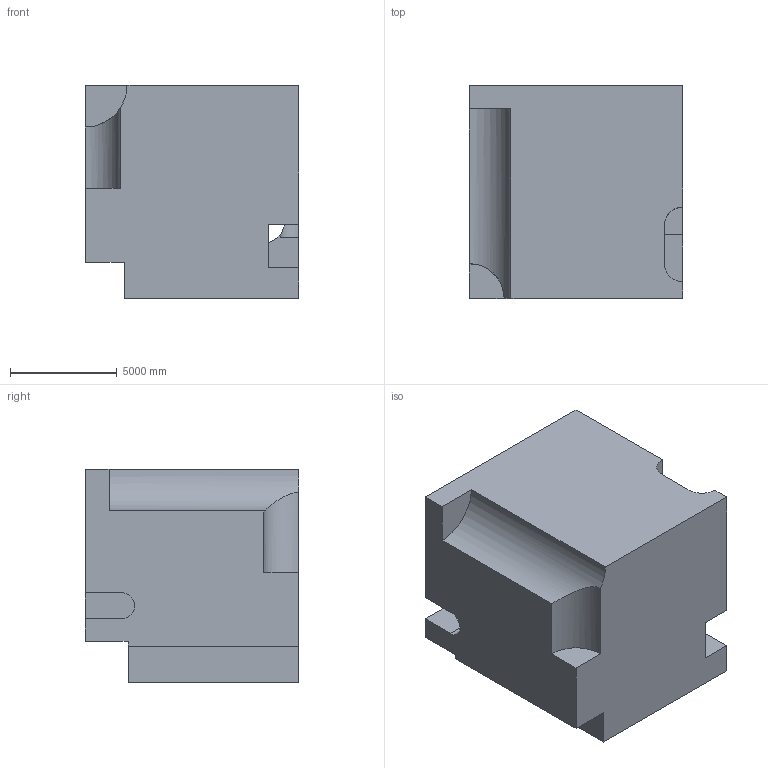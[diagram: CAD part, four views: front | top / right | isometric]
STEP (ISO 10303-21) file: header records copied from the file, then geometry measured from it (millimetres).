
FILE_DESCRIPTION (( 'STEP AP203' ), '1' );
FILE_NAME ('1705.STEP', '2022-08-19T11:54:06', ( 'user' ), ( '' ), 'SwSTEP 2.0', 'SolidWorks 2021', '' );
FILE_SCHEMA (( 'CONFIG_CONTROL_DESIGN' ));
Length unit declared in the file: centimetre
Products named in the file (1): 1705
Bounding box: 10000 x 10000 x 10000 mm (x, y, z)
Volume: 842561892399.4 mm3; surface area: 662811092.4 mm2
Topology: 1 solids, 1 shells, 34 faces, 96 edges, 64 vertices
Faces by surface type: plane 25, cylinder 9
Entity records: 1384 total; most frequent: CARTESIAN_POINT 403, ORIENTED_EDGE 192, DIRECTION 183, EDGE_CURVE 96, VECTOR 75, LINE 75, VERTEX_POINT 64, AXIS2_PLACEMENT_3D 54
